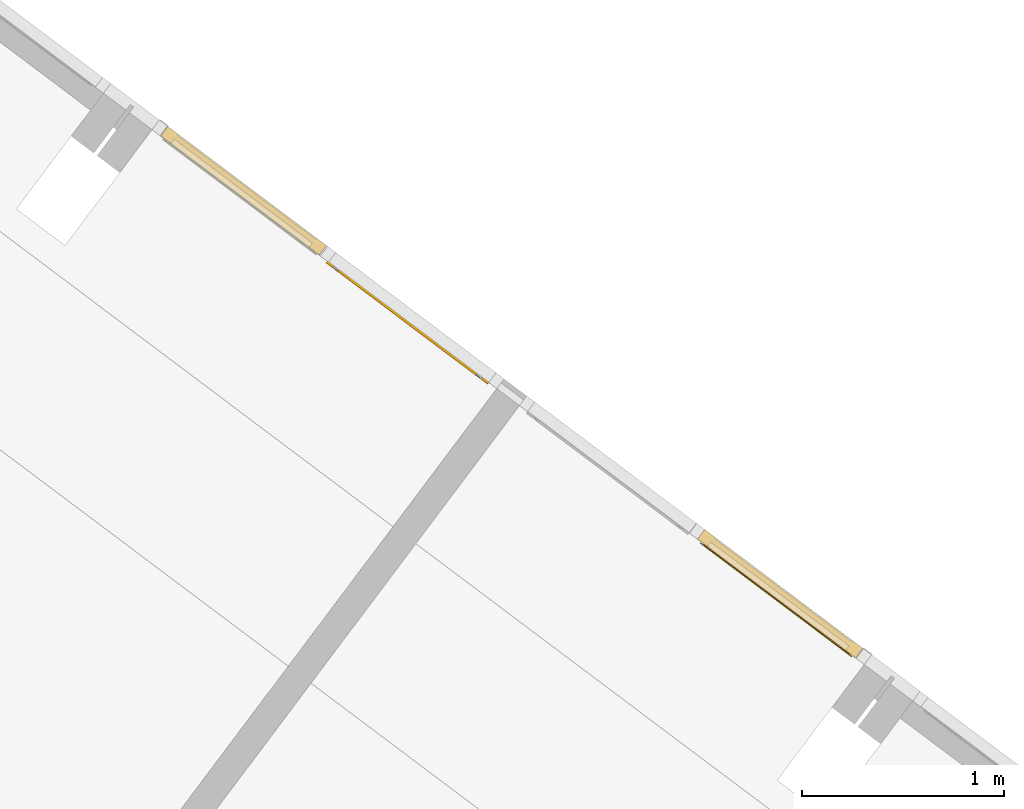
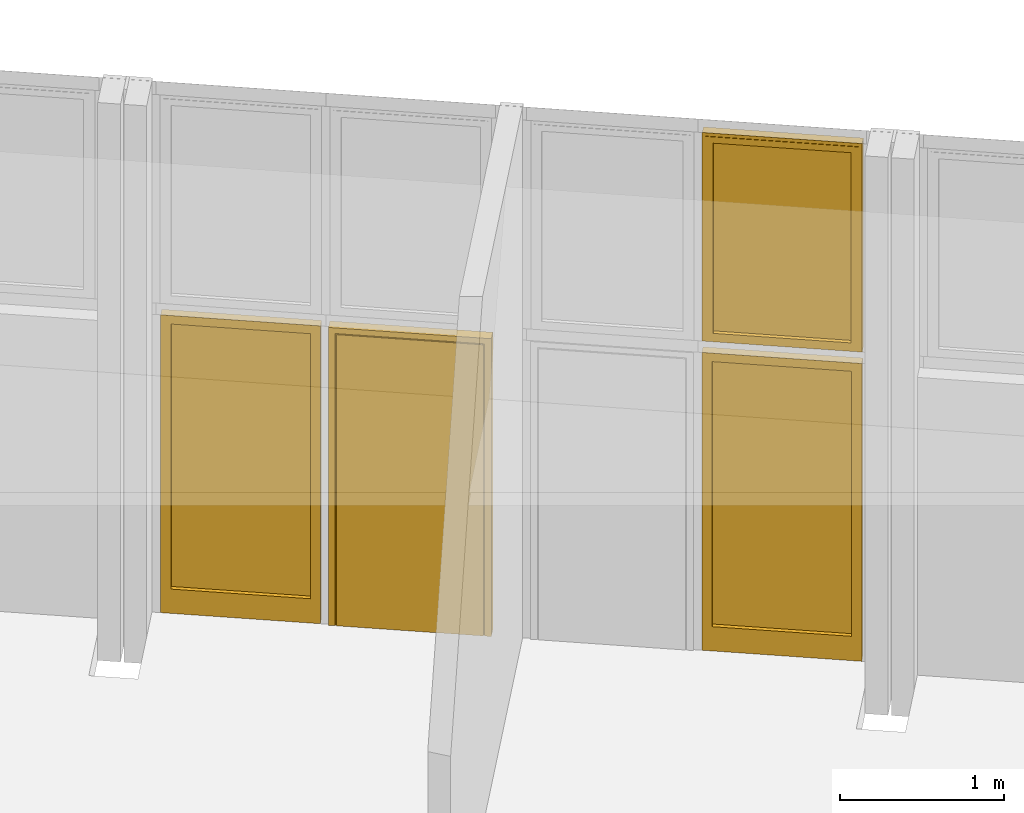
# One storey, part 13 of 18: 3 windows, 1 door, 3 elements without a shape of their own.
"""IFC2X3 building model written with IfcOpenShell, lengths in metres."""

from ifc_helpers import new_model, entity, si_unit, converted_unit, derived_unit, direction, frame, origin, place, context, subcontext, project, spatial, faceted_brep, source, transform, mapped, material, material_list, type_object, type_shapes, element, aggregate, save


model = new_model("IFC2X3")

# Units and contexts
model_context = context("Model", 3, precision=1e-05, world=origin(), true_north=direction((6.123031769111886e-17, 1.0)))
body_context = subcontext(model_context, "Body", "Model", "MODEL_VIEW")
ifc_project = project(units=[si_unit("LENGTHUNIT", "METRE"), si_unit("AREAUNIT", "SQUARE_METRE"), si_unit("VOLUMEUNIT", "CUBIC_METRE"), converted_unit("PLANEANGLEUNIT", "DEGREE", entity("IfcRatioMeasure", 0.017453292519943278), si_unit("PLANEANGLEUNIT", "RADIAN"), dimensions=[0, 0, 0, 0, 0, 0, 0]), si_unit("MASSUNIT", "GRAM", prefix="KILO"), derived_unit("MASSDENSITYUNIT", [(si_unit("MASSUNIT", "GRAM", prefix="KILO"), 1), (si_unit("LENGTHUNIT", "METRE"), -3)]), derived_unit("IONCONCENTRATIONUNIT", [(si_unit("MASSUNIT", "GRAM", prefix="KILO"), 1), (si_unit("LENGTHUNIT", "METRE"), -3)]), derived_unit("MOMENTOFINERTIAUNIT", [(si_unit("LENGTHUNIT", "METRE"), 4)]), si_unit("TIMEUNIT", "SECOND"), si_unit("FREQUENCYUNIT", "HERTZ"), si_unit("THERMODYNAMICTEMPERATUREUNIT", "DEGREE_CELSIUS"), derived_unit("THERMALTRANSMITTANCEUNIT", [(si_unit("MASSUNIT", "GRAM", prefix="KILO"), 1), (si_unit("THERMODYNAMICTEMPERATUREUNIT", "KELVIN"), -1), (si_unit("TIMEUNIT", "SECOND"), -3)]), derived_unit("THERMALCONDUCTANCEUNIT", [(si_unit("MASSUNIT", "GRAM", prefix="KILO"), 1), (si_unit("THERMODYNAMICTEMPERATUREUNIT", "KELVIN"), -1), (si_unit("TIMEUNIT", "SECOND"), -3), (si_unit("LENGTHUNIT", "METRE"), 1)]), derived_unit("VOLUMETRICFLOWRATEUNIT", [(si_unit("LENGTHUNIT", "METRE"), 3), (si_unit("TIMEUNIT", "SECOND"), -1)]), derived_unit("MASSFLOWRATEUNIT", [(si_unit("MASSUNIT", "GRAM", prefix="KILO"), 1), (si_unit("TIMEUNIT", "SECOND"), -1)]), derived_unit("ROTATIONALFREQUENCYUNIT", [(si_unit("TIMEUNIT", "SECOND"), -1)]), si_unit("ELECTRICCURRENTUNIT", "AMPERE"), si_unit("ELECTRICVOLTAGEUNIT", "VOLT"), si_unit("POWERUNIT", "WATT"), si_unit("FORCEUNIT", "NEWTON", prefix="KILO"), si_unit("ILLUMINANCEUNIT", "LUX"), si_unit("LUMINOUSFLUXUNIT", "LUMEN"), si_unit("LUMINOUSINTENSITYUNIT", "CANDELA"), derived_unit("USERDEFINED", [(si_unit("MASSUNIT", "GRAM", prefix="KILO"), -1), (si_unit("LENGTHUNIT", "METRE"), -2), (si_unit("TIMEUNIT", "SECOND"), 3), (si_unit("LUMINOUSFLUXUNIT", "LUMEN"), 1)]), derived_unit("USERDEFINED", [(si_unit("MASSUNIT", "GRAM", prefix="KILO"), 1), (si_unit("TIMEUNIT", "SECOND"), -3), (si_unit("LENGTHUNIT", "METRE"), 3), (si_unit("ELECTRICCURRENTUNIT", "AMPERE"), -2)]), derived_unit("SOUNDPOWERUNIT", [(si_unit("MASSUNIT", "GRAM", prefix="KILO"), 1), (si_unit("TIMEUNIT", "SECOND"), -3), (si_unit("LENGTHUNIT", "METRE"), 2)]), derived_unit("SOUNDPRESSUREUNIT", [(si_unit("MASSUNIT", "GRAM", prefix="KILO"), 1), (si_unit("LENGTHUNIT", "METRE"), -1), (si_unit("TIMEUNIT", "SECOND"), -2)]), derived_unit("LINEARVELOCITYUNIT", [(si_unit("LENGTHUNIT", "METRE"), 1), (si_unit("TIMEUNIT", "SECOND"), -1)]), si_unit("PRESSUREUNIT", "PASCAL"), derived_unit("USERDEFINED", [(si_unit("MASSUNIT", "GRAM", prefix="KILO"), 1), (si_unit("LENGTHUNIT", "METRE"), -2), (si_unit("TIMEUNIT", "SECOND"), -2)]), derived_unit("LINEARFORCEUNIT", [(si_unit("MASSUNIT", "GRAM", prefix="KILO"), 1), (si_unit("TIMEUNIT", "SECOND"), -2)]), derived_unit("PLANARFORCEUNIT", [(si_unit("MASSUNIT", "GRAM", prefix="KILO"), 1), (si_unit("LENGTHUNIT", "METRE"), -1), (si_unit("TIMEUNIT", "SECOND"), -2)]), derived_unit("SPECIFICHEATCAPACITYUNIT", [(si_unit("THERMODYNAMICTEMPERATUREUNIT", "KELVIN"), -1), (si_unit("LENGTHUNIT", "METRE"), 2), (si_unit("TIMEUNIT", "SECOND"), -2)]), derived_unit("HEATINGVALUEUNIT", [(si_unit("LENGTHUNIT", "METRE"), 2), (si_unit("TIMEUNIT", "SECOND"), -2)]), derived_unit("VAPORPERMEABILITYUNIT", [(si_unit("LENGTHUNIT", "METRE"), -1), (si_unit("TIMEUNIT", "SECOND"), 1)]), derived_unit("DYNAMICVISCOSITYUNIT", [(si_unit("MASSUNIT", "GRAM", prefix="KILO"), 1), (si_unit("TIMEUNIT", "SECOND"), -1), (si_unit("LENGTHUNIT", "METRE"), -1)]), derived_unit("THERMALEXPANSIONCOEFFICIENTUNIT", [(si_unit("THERMODYNAMICTEMPERATUREUNIT", "KELVIN"), -1)]), derived_unit("MODULUSOFELASTICITYUNIT", [(si_unit("MASSUNIT", "GRAM", prefix="KILO"), 1), (si_unit("LENGTHUNIT", "METRE"), -1), (si_unit("TIMEUNIT", "SECOND"), -2)]), derived_unit("ISOTHERMALMOISTURECAPACITYUNIT", [(si_unit("LENGTHUNIT", "METRE"), 3), (si_unit("MASSUNIT", "GRAM", prefix="KILO"), -1)]), derived_unit("MOISTUREDIFFUSIVITYUNIT", [(si_unit("TIMEUNIT", "SECOND"), -1), (si_unit("LENGTHUNIT", "METRE"), 2)])], contexts=[model_context])

# Site, building, storey
site_placement = place(None, frame((0.0, 0.0, 235.0), z_axis=(0.0, 0.0, 1.0), x_axis=(-0.7996477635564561, 0.6004693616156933, 0.0)))
site = spatial("IfcSite", under=ifc_project, at=site_placement, Name="Default", CompositionType="ELEMENT")
building_placement = place(site_placement, origin())
building = spatial("IfcBuilding", under=site, at=building_placement, CompositionType="ELEMENT")
storey_placement = place(building_placement, frame((0.0, 0.0, -4.459999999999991)))
storey = spatial("IfcBuildingStorey", under=building, at=storey_placement, Name="PS1- Vestuari", CompositionType="ELEMENT", Elevation=-4.459999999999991)

# Curtain wall, window
curtain_wall_type = type_object("IfcCurtainWallType", Name="Muro cortina:MC- EXT- AL6", PredefinedType="NOTDEFINED")
curtain_wall_1_placement = place(storey_placement, frame((0.0, 0.0, 4.459999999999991)))
curtain_wall_1 = element("IfcCurtainWall", 1, at=curtain_wall_1_placement, inside=storey, type_object=curtain_wall_type, Name="Muro cortina:MC- EXT- AL6", ObjectType="Muro cortina:MC- EXT- AL6")
ifc_material_1 = material(Name="_Vidre")
ifc_material_2 = material(Name="_Alumini- T1- Perfil")
ifc_material_list_1 = material_list([ifc_material_1, ifc_material_2])
window_style_1 = type_object("IfcWindowStyle", Name="MC- Alu- Conjunt finestra basculant- 68x68 cm:MC- Alu- Conjunt finestra basculant- 68x68 cm", ConstructionType="NOTDEFINED", OperationType="NOTDEFINED", ParameterTakesPrecedence=False, Sizeable=False, material=ifc_material_list_1)
shared_shape_1 = source(origin(), body_context, "Body", "Brep", [
    faceted_brep([(0.437911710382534, -0.03559830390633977, 0.051999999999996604), (-0.4379117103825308, -0.03559830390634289, 0.051999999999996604), (-0.43791171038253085, -0.011598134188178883, 0.051999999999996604), (0.4379117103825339, -0.011598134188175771, 0.051999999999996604), (0.437911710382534, -0.03559830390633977, 1.4953027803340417), (0.4379117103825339, -0.011598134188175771, 1.4953027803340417), (-0.4379117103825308, -0.011598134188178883, 1.4953027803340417), (-0.4379117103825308, -0.03559830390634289, 1.4953027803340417)], [[[0, 1, 2, 3]], [[4, 0, 3, 5]], [[5, 3, 2, 6]], [[6, 2, 1, 7]], [[7, 1, 0, 4]], [[4, 5, 6, 7]]]),
    faceted_brep([(-0.4222108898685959, -0.009998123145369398, 1.4796019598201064), (-0.4222108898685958, -0.009998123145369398, 0.06789804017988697), (-0.4222108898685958, -0.007998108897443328, 0.06789804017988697), (-0.4222108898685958, -0.007998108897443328, 1.4796019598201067), (-0.4511089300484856, -0.00799810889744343, 1.5084999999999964), (0.4511089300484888, -0.007998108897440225, 1.5084999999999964), (0.4511089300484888, -0.007998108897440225, 0.03899999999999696), (-0.4511089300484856, -0.00799810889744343, 0.03899999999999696), (0.4222108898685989, -0.007998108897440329, 1.4796019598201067), (0.4222108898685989, -0.007998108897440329, 0.06789804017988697), (0.4222108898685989, -0.009998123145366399, 0.06789804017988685), (0.422210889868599, -0.009998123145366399, 1.4796019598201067), (0.43791171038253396, -0.009998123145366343, 1.4953027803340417), (-0.43791171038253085, -0.009998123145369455, 1.4953027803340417), (-0.43791171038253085, -0.009998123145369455, 0.05219721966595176), (0.43791171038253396, -0.009998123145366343, 0.05219721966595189), (-0.4379117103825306, -0.04079986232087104, 1.4953027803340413), (-0.43791171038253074, -0.04079986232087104, 0.05219721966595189), (0.4379117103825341, -0.04079986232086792, 0.05219721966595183), (0.4379117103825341, -0.04079986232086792, 1.4953027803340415), (0.422210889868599, -0.040799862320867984, 1.4796019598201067), (-0.4222108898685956, -0.04079986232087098, 1.4796019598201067), (-0.4222108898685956, -0.04079986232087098, 0.06789804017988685), (0.422210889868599, -0.040799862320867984, 0.06789804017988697), (-0.42221088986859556, -0.06800005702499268, 1.4796019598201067), (-0.42221088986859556, -0.06800005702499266, 0.06789804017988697), (0.42221088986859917, -0.06800005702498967, 0.06789804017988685), (0.42221088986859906, -0.06800005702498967, 1.4796019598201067), (0.46861289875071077, -0.0680000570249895, 1.5260039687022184), (-0.4686128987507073, -0.06800005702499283, 1.5260039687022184), (-0.4686128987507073, -0.06800005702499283, 0.021496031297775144), (0.46861289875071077, -0.0680000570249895, 0.021496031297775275), (-0.4686128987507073, -0.06450003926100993, 1.5260039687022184), (-0.4686128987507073, -0.06450003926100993, 0.021496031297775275), (0.46861289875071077, -0.0645000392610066, 0.021496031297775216), (0.46861289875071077, -0.0645000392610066, 1.5260039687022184), (0.45110893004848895, -0.06450003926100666, 1.5084999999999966), (-0.45110893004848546, -0.06450003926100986, 1.5084999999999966), (-0.45110893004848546, -0.06450003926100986, 0.03899999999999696), (0.45110893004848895, -0.06450003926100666, 0.03899999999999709)], [[[0, 1, 2, 3]], [[4, 5, 6, 7], [8, 3, 2, 9]], [[1, 10, 9, 2]], [[0, 11, 10, 1], [12, 13, 14, 15]], [[16, 17, 14, 13]], [[17, 18, 15, 14]], [[16, 19, 18, 17], [20, 21, 22, 23]], [[24, 25, 22, 21]], [[25, 26, 23, 22]], [[24, 27, 26, 25], [28, 29, 30, 31]], [[32, 33, 30, 29]], [[33, 34, 31, 30]], [[32, 35, 34, 33], [36, 37, 38, 39]], [[4, 7, 38, 37]], [[7, 6, 39, 38]], [[10, 11, 8, 9]], [[18, 19, 12, 15]], [[26, 27, 20, 23]], [[34, 35, 28, 31]], [[6, 5, 36, 39]], [[11, 0, 3, 8]], [[19, 16, 13, 12]], [[27, 24, 21, 20]], [[35, 32, 29, 28]], [[5, 4, 37, 36]]], outer=[[True], [True, False], [True], [False, True], [True], [True], [True, False], [True], [True], [False, True], [True], [True], [True, False], [True], [True], [True], [True], [True], [True], [True], [True], [True], [True], [True], [True]]),
    faceted_brep([(0.42719318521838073, 0.0, 1.484693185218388), (0.427193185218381, 0.0, 0.06280681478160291), (0.427193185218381, -0.0040000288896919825, 0.06280681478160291), (0.427193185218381, -0.0040000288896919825, 1.4846931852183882), (-0.427193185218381, -0.0040000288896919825, 1.4846931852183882), (-0.427193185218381, -0.0040000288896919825, 0.06280681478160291), (0.46259980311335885, -0.0040000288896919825, 1.5200998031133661), (-0.46259980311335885, -0.0040000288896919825, 1.5200998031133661), (-0.46259980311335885, -0.0040000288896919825, 0.02740019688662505), (0.46259980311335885, -0.0040000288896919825, 0.027400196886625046), (-0.427193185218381, 0.0, 0.06280681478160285), (-0.42719318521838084, 0.0, 1.4846931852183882), (-0.4899999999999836, 0.0, 1.547499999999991), (0.4899999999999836, 0.0, 1.547499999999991), (0.4899999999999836, 0.0, 0.0), (-0.4899999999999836, 0.0, 0.0), (0.4899999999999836, -0.05999999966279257, 1.547499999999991), (0.4899999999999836, -0.05999999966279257, 0.0), (-0.4899999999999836, -0.05999999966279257, 0.0), (-0.4899999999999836, -0.05999999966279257, 1.547499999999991), (-0.4625998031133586, -0.05999999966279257, 1.520099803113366), (0.4625998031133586, -0.05999999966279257, 1.520099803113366), (0.4625998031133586, -0.05999999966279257, 0.02740019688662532), (-0.4625998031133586, -0.05999999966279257, 0.027400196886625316)], [[[0, 1, 2, 3]], [[4, 3, 2, 5], [6, 7, 8, 9]], [[1, 10, 5, 2]], [[0, 11, 10, 1], [12, 13, 14, 15]], [[16, 17, 14, 13]], [[17, 18, 15, 14]], [[16, 19, 18, 17], [20, 21, 22, 23]], [[6, 9, 22, 21]], [[9, 8, 23, 22]], [[10, 11, 4, 5]], [[18, 19, 12, 15]], [[8, 7, 20, 23]], [[11, 0, 3, 4]], [[19, 16, 13, 12]], [[7, 6, 21, 20]]], outer=[[True], [False, True], [True], [False, True], [True], [True], [True, False], [True], [True], [True], [True], [True], [True], [True], [True]]),
])
type_shapes(window_style_1, [shared_shape_1])
window_1_placement = place(curtain_wall_1_placement, frame((62.58514768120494, -40.465191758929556, -2.164999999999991), z_axis=(0.0, 0.0, 1.0), x_axis=(-1.0, 0.0, 0.0)))
window_1 = element("IfcWindow", 2, at=window_1_placement, type_object=window_style_1, material=ifc_material_list_1, Name="MC- Alu- Conjunt finestra basculant- 68x68 cm:MC- Alu- Conjunt finestra basculant- 68x68 cm", ObjectType="MC- Alu- Conjunt finestra basculant- 68x68 cm:MC- Alu- Conjunt finestra basculant- 68x68 cm", OverallHeight=1.5474999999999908, OverallWidth=0.9799999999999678, context=body_context, shape_type="MappedRepresentation", body=[
    mapped(shared_shape_1, transform((0.0, 0.0, 0.0), scale=1.0)),
])
aggregate(curtain_wall_1, [window_1])

curtain_wall_2_placement = place(storey_placement, frame((0.0, 0.0, 4.459999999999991)))
curtain_wall_2 = element("IfcCurtainWall", 3, at=curtain_wall_2_placement, inside=storey, type_object=curtain_wall_type, Name="Muro cortina:MC- EXT- AL6", ObjectType="Muro cortina:MC- EXT- AL6")
ifc_material_list_2 = material_list([ifc_material_2, ifc_material_1])
window_style_2 = type_object("IfcWindowStyle", Name="MC- Alu- Conjunt vidre fix- 62x60 cm- +15cm:MC- Alu- Conjunt vidre fix- 62x60 cm- +15cm", ConstructionType="NOTDEFINED", OperationType="NOTDEFINED", ParameterTakesPrecedence=False, Sizeable=False, material=ifc_material_list_2)
shared_shape_2 = source(origin(), body_context, "Body", "Brep", [
    faceted_brep([(0.48972517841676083, -0.05999999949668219, 0.0), (0.48972517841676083, 0.0, 0.0), (0.48972517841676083, 0.0, 2.209941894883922), (0.48972517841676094, -0.05999999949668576, 2.2099418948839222), (-0.48972517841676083, 0.0, 0.0), (-0.48972517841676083, -0.05999999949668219, 0.0), (-0.48972517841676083, 0.0, 2.209941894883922), (-0.4269183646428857, 0.0, 0.1800028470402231), (0.42691836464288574, 0.0, 0.1800028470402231), (0.42691836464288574, 0.0, 2.1471350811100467), (-0.4269183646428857, 0.0, 2.1471350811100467), (-0.48972517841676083, -0.05999999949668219, 2.209941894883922), (0.42692121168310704, -0.05999999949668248, 0.18000000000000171), (-0.426921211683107, -0.05999999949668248, 0.18000000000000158), (-0.426921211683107, -0.05999999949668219, 2.147137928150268), (0.42692121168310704, -0.05999999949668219, 2.147137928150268), (-0.4269183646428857, -0.00760005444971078, 0.180002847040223), (0.42691836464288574, -0.00760005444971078, 0.18000284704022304), (0.4269183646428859, -0.007600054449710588, 2.1471350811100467), (-0.4269183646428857, -0.007600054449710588, 2.1471350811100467), (0.44091846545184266, -0.007600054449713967, 2.161135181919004), (-0.44091846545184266, -0.007600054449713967, 2.161135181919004), (-0.4409184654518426, -0.0076000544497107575, 0.16619603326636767), (0.4409184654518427, -0.0076000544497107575, 0.16619603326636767), (-0.44091846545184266, -0.03160022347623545, 2.161135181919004), (-0.44091846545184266, -0.03160022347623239, 0.16619603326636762), (0.4409184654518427, -0.03160022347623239, 0.16619603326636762), (0.4409184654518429, -0.03160022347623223, 2.1611351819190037), (-0.4269212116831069, -0.03160022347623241, 0.1800000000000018), (0.4269212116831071, -0.03160022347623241, 0.1800000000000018), (0.426921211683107, -0.03160022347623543, 2.147137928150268), (-0.4269212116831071, -0.03160022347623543, 2.147137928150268)], [[[0, 1, 2, 3]], [[4, 1, 0, 5]], [[2, 1, 4, 6], [7, 8, 9, 10]], [[0, 3, 11, 5], [12, 13, 14, 15]], [[11, 6, 4, 5]], [[8, 7, 16, 17]], [[18, 9, 8, 17]], [[10, 19, 16, 7]], [[17, 16, 19, 18], [20, 21, 22, 23]], [[22, 21, 24, 25]], [[23, 22, 25, 26]], [[26, 27, 20, 23]], [[28, 29, 30, 31], [24, 27, 26, 25]], [[29, 28, 13, 12]], [[15, 30, 29, 12]], [[31, 14, 13, 28]], [[3, 2, 6, 11]], [[9, 18, 19, 10]], [[20, 27, 24, 21]], [[30, 15, 14, 31]]], outer=[[True], [True], [True, False], [True, False], [True], [True], [True], [True], [False, True], [True], [True], [True], [False, True], [True], [True], [True], [True], [True], [True], [True]]),
    faceted_brep([(-0.4409184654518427, -0.007600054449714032, 0.1661960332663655), (0.4409184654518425, -0.007600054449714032, 0.1661960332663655), (0.4409184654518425, -0.03160022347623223, 0.1661960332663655), (-0.4409184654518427, -0.03160022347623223, 0.1661960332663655), (-0.4409184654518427, -0.007600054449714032, 2.160941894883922), (0.4409184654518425, -0.007600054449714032, 2.160941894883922), (0.4409184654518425, -0.03160022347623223, 2.160941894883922), (-0.4409184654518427, -0.03160022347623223, 2.160941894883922)], [[[0, 1, 2, 3]], [[4, 5, 1, 0]], [[5, 6, 2, 1]], [[6, 7, 3, 2]], [[7, 4, 0, 3]], [[4, 7, 6, 5]]]),
])
type_shapes(window_style_2, [shared_shape_2])
window_2_placement = place(curtain_wall_2_placement, frame((62.587872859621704, -40.465191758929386, -4.459999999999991), z_axis=(0.0, 0.0, 1.0), x_axis=(-1.0, 0.0, 0.0)))
window_2 = element("IfcWindow", 4, at=window_2_placement, type_object=window_style_2, material=ifc_material_list_2, Name="MC- Alu- Conjunt vidre fix- 62x60 cm- +15cm:MC- Alu- Conjunt vidre fix- 62x60 cm- +15cm", ObjectType="MC- Alu- Conjunt vidre fix- 62x60 cm- +15cm:MC- Alu- Conjunt vidre fix- 62x60 cm- +15cm", OverallHeight=2.209941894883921, OverallWidth=0.9794503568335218, context=body_context, shape_type="MappedRepresentation", body=[
    mapped(shared_shape_2, transform((0.0, 0.0, 0.0), scale=1.0)),
])
aggregate(curtain_wall_2, [window_2])

# Curtain wall, door, window
curtain_wall_3_placement = place(storey_placement, frame((0.0, 0.0, 4.459999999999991)))
curtain_wall_3 = element("IfcCurtainWall", 5, at=curtain_wall_3_placement, inside=storey, type_object=curtain_wall_type, Name="Muro cortina:MC- EXT- AL6", ObjectType="Muro cortina:MC- EXT- AL6")
door_style = type_object("IfcDoorStyle", Name="MC- Alu- Conjunt porta- 70x60 cm- opacat:MC- Alu- Conjunt porta- 70x60 cm- opacat", ConstructionType="NOTDEFINED", OperationType="NOTDEFINED", ParameterTakesPrecedence=False, Sizeable=False, material=ifc_material_2)
shared_shape_3 = source(origin(), body_context, "Body", "Brep", [
    faceted_brep([(0.4214748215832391, -2.945720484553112e-07, 0.02800000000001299), (0.4214748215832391, -0.015000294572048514, 0.02800000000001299), (-0.42147482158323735, -0.015000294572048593, 0.02800000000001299), (-0.421474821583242, -2.9457204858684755e-07, 0.02800000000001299), (0.4214748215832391, -2.945720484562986e-07, 2.1326418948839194), (0.42147482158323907, -0.015000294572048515, 2.1326418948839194), (-0.42147482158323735, -0.015000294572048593, 2.1326418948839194), (-0.4214748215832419, -2.9457204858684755e-07, 2.1326418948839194)], [[[0, 1, 2, 3]], [[4, 5, 1, 0]], [[5, 6, 2, 1]], [[6, 7, 3, 2]], [[7, 4, 0, 3]], [[4, 7, 6, 5]]]),
    faceted_brep([(0.42147482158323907, -0.06999999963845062, 0.02800000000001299), (-0.42147482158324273, -0.06999999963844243, 0.02800000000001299), (-0.42147482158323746, -0.05499999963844, 0.02800000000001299), (0.4214748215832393, -0.05499999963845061, 0.02800000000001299), (0.42147482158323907, -0.06999999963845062, 2.1326418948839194), (-0.42147482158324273, -0.06999999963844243, 2.1326418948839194), (-0.4214748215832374, -0.05499999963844, 2.1326418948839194), (0.4214748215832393, -0.05499999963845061, 2.1326418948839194)], [[[0, 1, 2, 3]], [[4, 5, 1, 0]], [[5, 6, 2, 1]], [[6, 7, 3, 2]], [[7, 4, 0, 3]], [[4, 7, 6, 5]]]),
    faceted_brep([(0.4494748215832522, -0.06570000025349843, 2.160641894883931), (0.4494748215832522, -0.06999999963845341, 2.1606418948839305), (0.4494748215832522, -0.06999999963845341, 0.0), (0.4494748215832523, -0.06570000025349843, 0.0), (0.4214748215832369, -0.06999999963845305, 0.028000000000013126), (-0.4214748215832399, -0.06999999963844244, 0.028000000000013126), (-0.42147482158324, -0.06999999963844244, 2.132641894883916), (0.4214748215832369, -0.06999999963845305, 2.132641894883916), (-0.44947482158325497, -0.06999999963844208, 2.1606418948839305), (-0.4494748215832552, -0.0699999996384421, 0.0), (-0.44947482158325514, -0.06570000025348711, 0.0), (-0.44947482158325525, -0.06570000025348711, 2.160641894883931), (0.4254748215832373, -0.06570000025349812, 2.136641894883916), (-0.4254748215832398, -0.06570000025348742, 2.136641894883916), (-0.42547482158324, -0.06570000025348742, 0.024000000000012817), (0.4254748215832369, -0.06570000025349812, 0.024000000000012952), (0.42547482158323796, -2.9457205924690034e-07, 2.136641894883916), (0.4254748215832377, -2.9457205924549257e-07, 0.024000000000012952), (-0.4254748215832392, -2.945720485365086e-07, 0.024000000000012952), (-0.42547482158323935, -2.945720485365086e-07, 2.136641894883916), (0.42147482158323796, -2.9457205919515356e-07, 2.132641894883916), (-0.4214748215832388, -2.9457204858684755e-07, 2.132641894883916), (-0.421474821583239, -2.9457204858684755e-07, 0.02800000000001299), (0.4214748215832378, -2.9457205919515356e-07, 0.028000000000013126)], [[[0, 1, 2, 3]], [[4, 5, 6, 7], [1, 8, 9, 2]], [[3, 2, 9, 10]], [[3, 10, 11, 0], [12, 13, 14, 15]], [[16, 12, 15, 17]], [[17, 15, 14, 18]], [[17, 18, 19, 16], [20, 21, 22, 23]], [[10, 9, 8, 11]], [[18, 14, 13, 19]], [[7, 20, 23, 4]], [[4, 23, 22, 5]], [[5, 22, 21, 6]], [[11, 8, 1, 0]], [[6, 21, 20, 7]], [[19, 13, 12, 16]]], outer=[[True], [False, True], [True], [True, False], [True], [True], [True, False], [True], [True], [True], [True], [True], [True], [True], [True]]),
    faceted_brep([(0.49877482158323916, -0.06999999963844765, 0.0), (0.45747482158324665, -0.06999999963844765, 0.0), (0.45747482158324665, -0.059699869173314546, 0.0), (0.4469747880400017, -0.059699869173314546, 0.0), (0.4469747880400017, -0.008800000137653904, 0.0), (0.4314748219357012, -0.008800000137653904, 0.0), (0.4314748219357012, 0.0, 0.0), (0.49877482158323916, 0.0, 0.0), (0.49877482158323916, -0.06999999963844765, 2.2099418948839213), (-0.49877482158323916, -0.06999999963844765, 2.2099418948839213), (-0.49877482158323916, -0.06999999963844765, 0.0), (-0.45747482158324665, -0.06999999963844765, 0.0), (-0.45747482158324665, -0.06999999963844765, 2.1686418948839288), (0.45747482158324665, -0.06999999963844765, 2.1686418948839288), (0.45747482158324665, -0.059699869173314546, 2.1686418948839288), (-0.45747482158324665, -0.059699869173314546, 2.1686418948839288), (-0.45747482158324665, -0.059699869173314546, 0.0), (-0.4469747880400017, -0.059699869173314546, 0.0), (-0.4469747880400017, -0.059699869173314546, 2.1581418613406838), (0.4469747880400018, -0.059699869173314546, 2.1581418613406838), (0.4469747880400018, -0.008800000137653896, 2.1581418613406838), (-0.4469747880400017, -0.008800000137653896, 2.1581418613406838), (-0.4469747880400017, -0.008800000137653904, 0.0), (-0.4314748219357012, -0.008800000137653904, 0.0), (-0.43147482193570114, -0.008800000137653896, 2.1426418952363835), (0.4314748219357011, -0.008800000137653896, 2.142641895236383), (0.4314748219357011, 0.0, 2.142641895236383), (-0.4314748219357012, 0.0, 2.1426418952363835), (-0.4314748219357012, 0.0, 0.0), (-0.49877482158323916, 0.0, 0.0), (-0.49877482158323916, 0.0, 2.2099418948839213), (0.4987748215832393, 0.0, 2.2099418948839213)], [[[0, 1, 2, 3, 4, 5, 6, 7]], [[1, 0, 8, 9, 10, 11, 12, 13]], [[2, 1, 13, 14]], [[3, 2, 14, 15, 16, 17, 18, 19]], [[4, 3, 19, 20]], [[5, 4, 20, 21, 22, 23, 24, 25]], [[6, 5, 25, 26]], [[7, 6, 26, 27, 28, 29, 30, 31]], [[0, 7, 31, 8]], [[10, 29, 28, 23, 22, 17, 16, 11]], [[9, 30, 29, 10]], [[27, 24, 23, 28]], [[21, 18, 17, 22]], [[15, 12, 11, 16]], [[14, 13, 12, 15]], [[20, 19, 18, 21]], [[26, 25, 24, 27]], [[8, 31, 30, 9]]]),
])
type_shapes(door_style, [shared_shape_3])
door_placement = place(curtain_wall_3_placement, frame((64.86392250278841, -40.46519175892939, -4.459999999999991), z_axis=(0.0, 0.0, 1.0), x_axis=(-1.0, 0.0, 0.0)))
door = element("IfcDoor", 6, at=door_placement, type_object=door_style, material=ifc_material_2, Name="MC- Alu- Conjunt porta- 70x60 cm- opacat:MC- Alu- Conjunt porta- 70x60 cm- opacat", ObjectType="MC- Alu- Conjunt porta- 70x60 cm- opacat:MC- Alu- Conjunt porta- 70x60 cm- opacat", OverallHeight=2.209941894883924, OverallWidth=0.9975496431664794, context=body_context, shape_type="MappedRepresentation", body=[
    mapped(shared_shape_3, transform((0.0, 0.0, 0.0), scale=1.0)),
])
window_style_3 = type_object("IfcWindowStyle", Name="MC- Alu- Conjunt vidre fix- 62x60 cm- +15cm:MC- Alu- Conjunt vidre fix- 62x60 cm- +15cm", ConstructionType="NOTDEFINED", OperationType="NOTDEFINED", ParameterTakesPrecedence=False, Sizeable=False, material=ifc_material_list_2)
shared_shape_4 = source(origin(), body_context, "Body", "Brep", [
    faceted_brep([(-0.48972517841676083, -0.05999999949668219, 0.0), (-0.48972517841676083, -0.05999999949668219, 2.209941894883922), (-0.48972517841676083, 0.0, 2.2099418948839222), (-0.48972517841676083, 0.0, 0.0), (0.48972517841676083, 0.0, 0.0), (0.48972517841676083, -0.05999999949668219, 0.0), (0.4269183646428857, 0.0, 0.18000284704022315), (0.4269183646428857, 0.0, 2.1471350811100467), (-0.4269183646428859, 0.0, 2.1471350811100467), (-0.42691836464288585, 0.0, 0.1800028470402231), (0.48972517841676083, 0.0, 2.209941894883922), (0.48972517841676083, -0.05999999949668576, 2.209941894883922), (-0.4269212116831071, -0.05999999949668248, 0.18000000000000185), (-0.426921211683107, -0.05999999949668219, 2.147137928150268), (0.426921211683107, -0.05999999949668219, 2.147137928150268), (0.426921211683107, -0.05999999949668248, 0.18000000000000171), (-0.42691836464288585, -0.00760005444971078, 0.180002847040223), (0.4269183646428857, -0.00760005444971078, 0.18000284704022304), (-0.4269183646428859, -0.007600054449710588, 2.1471350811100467), (0.42691836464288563, -0.007600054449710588, 2.1471350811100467), (-0.4409184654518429, -0.007600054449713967, 2.161135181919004), (-0.44091846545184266, -0.0076000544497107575, 0.16619603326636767), (0.44091846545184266, -0.0076000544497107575, 0.16619603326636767), (0.44091846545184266, -0.007600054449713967, 2.161135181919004), (0.44091846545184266, -0.03160022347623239, 0.16619603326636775), (0.44091846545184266, -0.03160022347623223, 2.1611351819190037), (-0.44091846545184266, -0.03160022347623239, 0.16619603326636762), (-0.4409184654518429, -0.03160022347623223, 2.161135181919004), (0.426921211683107, -0.03160022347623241, 0.18000000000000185), (0.42692121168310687, -0.03160022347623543, 2.147137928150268), (-0.42692121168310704, -0.03160022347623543, 2.147137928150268), (-0.426921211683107, -0.03160022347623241, 0.1800000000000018)], [[[0, 1, 2, 3]], [[4, 5, 0, 3]], [[6, 7, 8, 9], [2, 10, 4, 3]], [[0, 5, 11, 1], [12, 13, 14, 15]], [[11, 5, 4, 10]], [[9, 16, 17, 6]], [[18, 16, 9, 8]], [[7, 6, 17, 19]], [[16, 18, 19, 17], [20, 21, 22, 23]], [[22, 24, 25, 23]], [[21, 26, 24, 22]], [[26, 21, 20, 27]], [[25, 24, 26, 27], [28, 29, 30, 31]], [[31, 12, 15, 28]], [[13, 12, 31, 30]], [[29, 28, 15, 14]], [[1, 11, 10, 2]], [[8, 7, 19, 18]], [[20, 23, 25, 27]], [[30, 29, 14, 13]]], outer=[[True], [True], [False, True], [True, False], [True], [True], [True], [True], [False, True], [True], [True], [True], [True, False], [True], [True], [True], [True], [True], [True], [True]]),
    faceted_brep([(0.4409184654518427, -0.007600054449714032, 0.1661960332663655), (0.4409184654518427, -0.03160022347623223, 0.1661960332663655), (-0.4409184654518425, -0.03160022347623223, 0.1661960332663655), (-0.4409184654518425, -0.007600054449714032, 0.1661960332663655), (0.4409184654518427, -0.007600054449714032, 2.160941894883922), (-0.4409184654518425, -0.007600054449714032, 2.160941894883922), (-0.4409184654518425, -0.03160022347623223, 2.160941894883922), (0.4409184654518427, -0.03160022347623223, 2.160941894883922)], [[[0, 1, 2, 3]], [[4, 0, 3, 5]], [[5, 3, 2, 6]], [[6, 2, 1, 7]], [[7, 1, 0, 4]], [[4, 5, 6, 7]]]),
])
type_shapes(window_style_3, [shared_shape_4])
window_3_placement = place(curtain_wall_3_placement, frame((65.90242250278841, -40.465191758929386, -4.459999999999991), z_axis=(0.0, 0.0, 1.0), x_axis=(-1.0, 0.0, 0.0)))
window_3 = element("IfcWindow", 7, at=window_3_placement, type_object=window_style_3, material=ifc_material_list_2, Name="MC- Alu- Conjunt vidre fix- 62x60 cm- +15cm:MC- Alu- Conjunt vidre fix- 62x60 cm- +15cm", ObjectType="MC- Alu- Conjunt vidre fix- 62x60 cm- +15cm:MC- Alu- Conjunt vidre fix- 62x60 cm- +15cm", OverallHeight=2.209941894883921, OverallWidth=0.9794503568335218, context=body_context, shape_type="MappedRepresentation", body=[
    mapped(shared_shape_4, transform((0.0, 0.0, 0.0), scale=1.0)),
])
aggregate(curtain_wall_3, [door, window_3])

save(model, "model.ifc")
